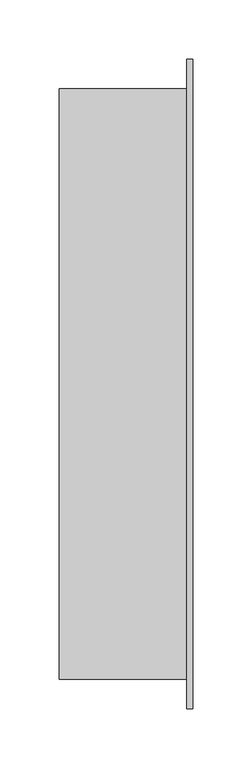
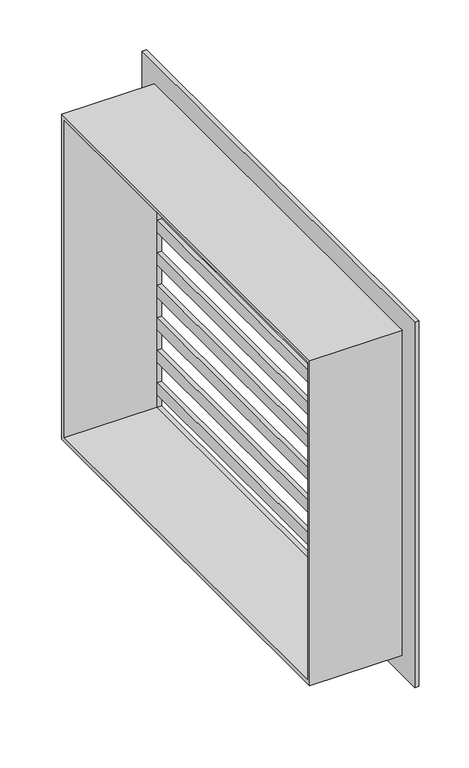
"""IFC4 building model written with IfcOpenShell, lengths in millimetres: air terminal geometry, Grille Entrée d'air Chaufferie : THIS IS A TYPE CATALOG FAMILY."""

from ifc_helpers import new_model, si_unit, frame, origin, place, context, project, spatial, polyline, outline, extrude, source, transform, mapped, element, save


def air_terminal_ef775b05(model_context):
    return source(origin(), model_context, "Body", "SweptSolid", [
        extrude(outline(polyline([(59.0, 245.0), (59.0, -245.0), (54.0, -245.0), (54.0, 245.0), (59.0, 245.0)])), frame((0.0, 0.0, -179.5861456), z_axis=(0.0, 0.0, 1.0), x_axis=(1.0, 0.0, 0.0)), (0.0, 0.0, 1.0), 14.5861456),
        extrude(outline(polyline([(59.0, 245.0), (59.0, -245.0), (54.0, -245.0), (54.0, 245.0), (59.0, 245.0)])), frame((0.0, 0.0, -139.5861456), z_axis=(0.0, 0.0, 1.0), x_axis=(1.0, 0.0, 0.0)), (0.0, 0.0, 1.0), 14.5861456),
        extrude(outline(polyline([(59.0, 245.0), (59.0, -245.0), (54.0, -245.0), (54.0, 245.0), (59.0, 245.0)])), frame((0.0, 0.0, -99.5861456), z_axis=(0.0, 0.0, 1.0), x_axis=(1.0, 0.0, 0.0)), (0.0, 0.0, 1.0), 14.5861456),
        extrude(outline(polyline([(59.0, 245.0), (59.0, -245.0), (54.0, -245.0), (54.0, 245.0), (59.0, 245.0)])), frame((0.0, 0.0, -59.5861456), z_axis=(0.0, 0.0, 1.0), x_axis=(1.0, 0.0, 0.0)), (0.0, 0.0, 1.0), 14.5861456),
        extrude(outline(polyline([(59.0, 245.0), (59.0, -245.0), (54.0, -245.0), (54.0, 245.0), (59.0, 245.0)])), frame((0.0, 0.0, -19.5861456), z_axis=(0.0, 0.0, 1.0), x_axis=(1.0, 0.0, 0.0)), (0.0, 0.0, 1.0), 14.5861456),
        extrude(outline(polyline([(59.0, 245.0), (59.0, -245.0), (54.0, -245.0), (54.0, 245.0), (59.0, 245.0)])), frame((0.0, 0.0, 20.4138544), z_axis=(0.0, 0.0, 1.0), x_axis=(1.0, 0.0, 0.0)), (0.0, 0.0, 1.0), 14.5861456),
        extrude(outline(polyline([(59.0, 245.0), (59.0, -245.0), (54.0, -245.0), (54.0, 245.0), (59.0, 245.0)])), frame((0.0, 0.0, 60.4138544), z_axis=(0.0, 0.0, 1.0), x_axis=(1.0, 0.0, 0.0)), (0.0, 0.0, 1.0), 14.5861456),
        extrude(outline(polyline([(59.0, 245.0), (59.0, -245.0), (54.0, -245.0), (54.0, 245.0), (59.0, 245.0)])), frame((0.0, 0.0, 100.4138544), z_axis=(0.0, 0.0, 1.0), x_axis=(1.0, 0.0, 0.0)), (0.0, 0.0, 1.0), 14.5861456),
        extrude(outline(polyline([(59.0, 245.0), (59.0, -245.0), (54.0, -245.0), (54.0, 245.0), (59.0, 245.0)])), frame((0.0, 0.0, 140.4138544), z_axis=(0.0, 0.0, 1.0), x_axis=(1.0, 0.0, 0.0)), (0.0, 0.0, 1.0), 14.5861456),
        extrude(outline(polyline([(59.0, 245.0), (59.0, -245.0), (54.0, -245.0), (54.0, 245.0), (59.0, 245.0)])), frame((0.0, 0.0, 180.4138544), z_axis=(0.0, 0.0, 1.0), x_axis=(1.0, 0.0, 0.0)), (0.0, 0.0, 1.0), 14.5861456),
        extrude(outline(polyline([(-275.0, 225.0), (275.0, 225.0), (275.0, -225.0), (-275.0, -225.0), (-275.0, 225.0)]), holes=[polyline([(-245.0, 195.0), (-245.0, -195.0), (245.0, -195.0), (245.0, 195.0), (-245.0, 195.0)])]), frame((54.0, 0.0, 0.0), z_axis=(1.0, 0.0, 0.0), x_axis=(0.0, 1.0, 0.0)), (0.0, 0.0, 1.0), 5.0),
        extrude(outline(polyline([(-250.0, 200.0), (250.0, 200.0), (250.0, -200.0), (-250.0, -200.0), (-250.0, 200.0)]), holes=[polyline([(-245.0, 195.0), (-245.0, -195.0), (245.0, -195.0), (245.0, 195.0), (-245.0, 195.0)])]), frame((-54.0, 0.0, 0.0), z_axis=(1.0, 0.0, 0.0), x_axis=(0.0, 1.0, 0.0)), (0.0, 0.0, 1.0), 108.0),
    ])


if __name__ == "__main__":
    model = new_model("IFC4")
    model_context = context("Model", 3, world=origin())
    ifc_project = project(units=[si_unit("LENGTHUNIT", "METRE", prefix="MILLI")], contexts=[model_context])
    site = spatial("IfcSite", under=ifc_project)
    building = spatial("IfcBuilding", under=site)
    placement = place(None, origin())
    air_terminal_shape = air_terminal_ef775b05(model_context)
    element("IfcAirTerminal", 1, ObjectType="Grille Entrée d'air Chaufferie : THIS IS A TYPE CATALOG FAMILY", at=placement, inside=building, context=model_context, shape_type="MappedRepresentation", body=[
        mapped(air_terminal_shape, transform((0.0, 0.0, 0.0), x_axis=(1.0, 0.0, 0.0), y_axis=(0.0, 1.0, 0.0), z_axis=(0.0, 0.0, 1.0))),
    ])
    save(model, "model.ifc")
